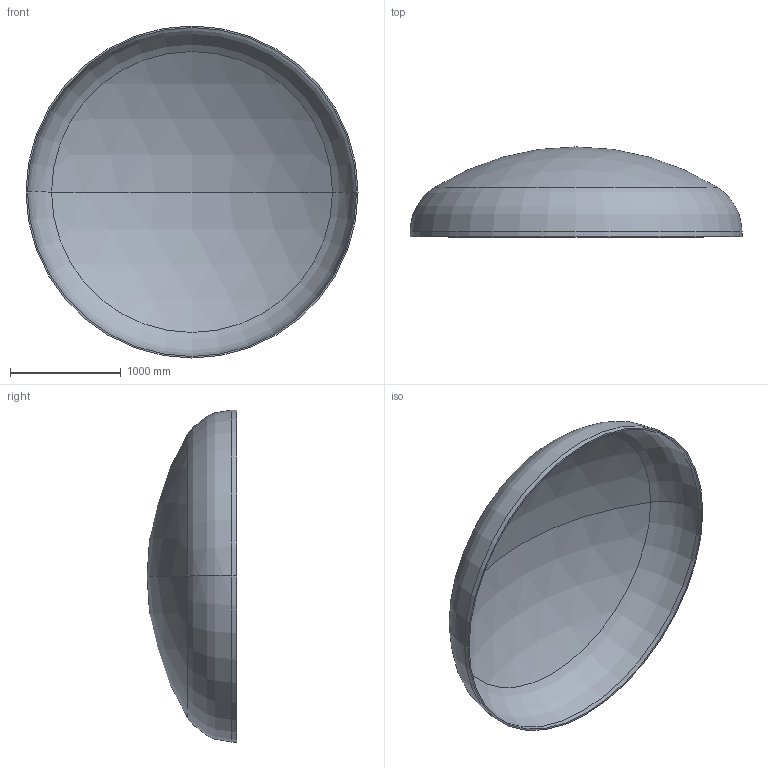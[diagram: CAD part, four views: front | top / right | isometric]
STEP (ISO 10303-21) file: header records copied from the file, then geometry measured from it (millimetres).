
FILE_DESCRIPTION (( 'STEP AP203' ), '1' );
FILE_NAME ('DIN 28013 Korbbogenform_-_Boden DIN 28013 - 3000 x 45 - I - s=14.step', '2016-07-01T17:30:41', ( '' ), ( '' ), 'SwSTEP 2.0', 'SolidWorks 2013', '' );
FILE_SCHEMA (( 'CONFIG_CONTROL_DESIGN' ));
Length unit declared in the file: millimetre
Products named in the file (1): DIN 28013 Korbbogenform_-_Boden DIN 28013 - 3000 x 45 - I - s=14
Bounding box: 3000 x 812.51 x 3000 mm (x, y, z)
Volume: 142016009.9 mm3; surface area: 20419735 mm2
Topology: 1 solids, 1 shells, 13 faces, 24 edges, 14 vertices
Faces by surface type: torus 4, cylinder 4, sphere 4, plane 1
Entity records: 407 total; most frequent: DIRECTION 72, CARTESIAN_POINT 52, ORIENTED_EDGE 48, AXIS2_PLACEMENT_3D 34, EDGE_CURVE 24, CIRCLE 20, EDGE_LOOP 14, VERTEX_POINT 14
